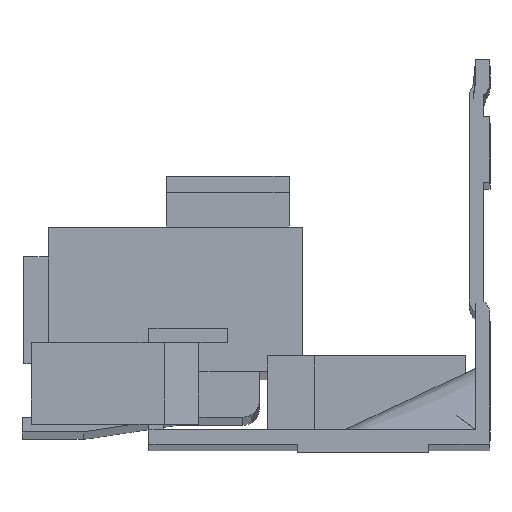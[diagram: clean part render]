
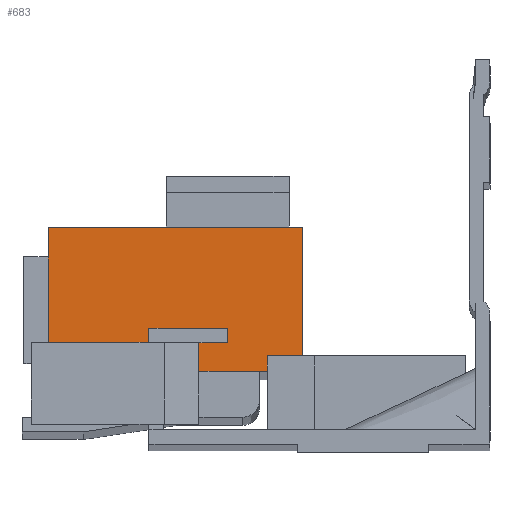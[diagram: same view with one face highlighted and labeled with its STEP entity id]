
A CAD part, front view. The second image highlights one B-rep face of the part: STEP entity #683.
In plain terms, the highlighted planar face has unit normal (0, -1, 0).
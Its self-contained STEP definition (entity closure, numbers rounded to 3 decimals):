
#567 = ORIENTED_EDGE ( 'NONE', *, *, #3698, .T. ) ;
#568 = ORIENTED_EDGE ( 'NONE', *, *, #3699, .F. ) ;
#569 = ORIENTED_EDGE ( 'NONE', *, *, #3700, .F. ) ;
#570 = ORIENTED_EDGE ( 'NONE', *, *, #3701, .F. ) ;
#571 = ORIENTED_EDGE ( 'NONE', *, *, #3712, .F. ) ;
#572 = ORIENTED_EDGE ( 'NONE', *, *, #3719, .F. ) ;
#573 = ORIENTED_EDGE ( 'NONE', *, *, #3738, .T. ) ;
#574 = ORIENTED_EDGE ( 'NONE', *, *, #3752, .T. ) ;
#575 = ORIENTED_EDGE ( 'NONE', *, *, #3702, .T. ) ;
#576 = ORIENTED_EDGE ( 'NONE', *, *, #3703, .T. ) ;
#577 = ORIENTED_EDGE ( 'NONE', *, *, #3704, .T. ) ;
#578 = ORIENTED_EDGE ( 'NONE', *, *, #3705, .T. ) ;
#683 = ADVANCED_FACE ( 'NONE', ( #4501 ), #1339, .F. ) ;
#1336 = DIRECTION ( 'NONE',  ( -1., 0., 0. ) ) ;
#1337 = DIRECTION ( 'NONE',  ( 0., 1., 0. ) ) ;
#1338 = CARTESIAN_POINT ( 'NONE',  ( -49.9, -20., -27.058 ) ) ;
#1339 = PLANE ( 'NONE',  #3899 ) ;
#1490 = VERTEX_POINT ( 'NONE', #2870 ) ;
#1494 = VERTEX_POINT ( 'NONE', #2874 ) ;
#1508 = VERTEX_POINT ( 'NONE', #2888 ) ;
#1511 = VERTEX_POINT ( 'NONE', #2891 ) ;
#1517 = VERTEX_POINT ( 'NONE', #2897 ) ;
#1519 = VERTEX_POINT ( 'NONE', #2899 ) ;
#1520 = VERTEX_POINT ( 'NONE', #2900 ) ;
#1583 = VERTEX_POINT ( 'NONE', #2963 ) ;
#1584 = VERTEX_POINT ( 'NONE', #2964 ) ;
#1585 = VERTEX_POINT ( 'NONE', #2965 ) ;
#1586 = VERTEX_POINT ( 'NONE', #2966 ) ;
#1607 = VERTEX_POINT ( 'NONE', #2987 ) ;
#2870 = CARTESIAN_POINT ( 'NONE',  ( -53.9, -20., -23.558 ) ) ;
#2874 = CARTESIAN_POINT ( 'NONE',  ( -41.6, -20., -21.858 ) ) ;
#2888 = CARTESIAN_POINT ( 'NONE',  ( -22.9, -20., -9.558 ) ) ;
#2891 = CARTESIAN_POINT ( 'NONE',  ( -53.9, -20., -9.558 ) ) ;
#2897 = CARTESIAN_POINT ( 'NONE',  ( -32., -20., -23.608 ) ) ;
#2899 = CARTESIAN_POINT ( 'NONE',  ( -32., -20., -21.858 ) ) ;
#2900 = CARTESIAN_POINT ( 'NONE',  ( -35.5, -20., -23.608 ) ) ;
#2963 = CARTESIAN_POINT ( 'NONE',  ( -27.15, -20., -25.181 ) ) ;
#2964 = CARTESIAN_POINT ( 'NONE',  ( -35.5, -20., -27.058 ) ) ;
#2965 = CARTESIAN_POINT ( 'NONE',  ( -27.15, -20., -27.058 ) ) ;
#2966 = CARTESIAN_POINT ( 'NONE',  ( -22.9, -20., -25.181 ) ) ;
#2987 = CARTESIAN_POINT ( 'NONE',  ( -41.6, -20., -23.558 ) ) ;
#3422 = CARTESIAN_POINT ( 'NONE',  ( -35.5, -20., -27.058 ) ) ;
#3423 = DIRECTION ( 'NONE',  ( 0., 0., -1. ) ) ;
#3424 = CARTESIAN_POINT ( 'NONE',  ( -32., -20., -23.608 ) ) ;
#3425 = DIRECTION ( 'NONE',  ( 1., 0., 0. ) ) ;
#3426 = CARTESIAN_POINT ( 'NONE',  ( -32., -20., -21.831 ) ) ;
#3427 = DIRECTION ( 'NONE',  ( 0., 0., 1. ) ) ;
#3428 = CARTESIAN_POINT ( 'NONE',  ( -41.6, -20., -21.858 ) ) ;
#3429 = DIRECTION ( 'NONE',  ( -1., 0., 0. ) ) ;
#3430 = CARTESIAN_POINT ( 'NONE',  ( -22.9, -20., -27.058 ) ) ;
#3431 = DIRECTION ( 'NONE',  ( 0., 0., 1. ) ) ;
#3432 = CARTESIAN_POINT ( 'NONE',  ( -49.9, -20., -25.181 ) ) ;
#3433 = DIRECTION ( 'NONE',  ( 1., 0., 0. ) ) ;
#3434 = CARTESIAN_POINT ( 'NONE',  ( -27.15, -20., -27.058 ) ) ;
#3435 = DIRECTION ( 'NONE',  ( 0., 0., 1. ) ) ;
#3436 = CARTESIAN_POINT ( 'NONE',  ( -49.9, -20., -27.058 ) ) ;
#3437 = DIRECTION ( 'NONE',  ( 1., 0., 0. ) ) ;
#3450 = CARTESIAN_POINT ( 'NONE',  ( -41.6, -20., -35.931 ) ) ;
#3451 = DIRECTION ( 'NONE',  ( 0., 0., -1. ) ) ;
#3464 = CARTESIAN_POINT ( 'NONE',  ( -49.9, -20., -23.558 ) ) ;
#3465 = DIRECTION ( 'NONE',  ( -1., 0., 0. ) ) ;
#3503 = CARTESIAN_POINT ( 'NONE',  ( -53.9, -20., -29.558 ) ) ;
#3504 = DIRECTION ( 'NONE',  ( 0., 0., -1. ) ) ;
#3533 = CARTESIAN_POINT ( 'NONE',  ( -53.9, -20., -9.558 ) ) ;
#3534 = DIRECTION ( 'NONE',  ( -1., 0., 0. ) ) ;
#3698 = EDGE_CURVE ( 'NONE', #1520, #1584, #4912, .T. ) ;
#3699 = EDGE_CURVE ( 'NONE', #1520, #1517, #4914, .T. ) ;
#3700 = EDGE_CURVE ( 'NONE', #1517, #1519, #4916, .T. ) ;
#3701 = EDGE_CURVE ( 'NONE', #1519, #1494, #4918, .T. ) ;
#3702 = EDGE_CURVE ( 'NONE', #1586, #1508, #4920, .T. ) ;
#3703 = EDGE_CURVE ( 'NONE', #1583, #1586, #4922, .T. ) ;
#3704 = EDGE_CURVE ( 'NONE', #1585, #1583, #4924, .T. ) ;
#3705 = EDGE_CURVE ( 'NONE', #1584, #1585, #4926, .T. ) ;
#3712 = EDGE_CURVE ( 'NONE', #1494, #1607, #4940, .T. ) ;
#3719 = EDGE_CURVE ( 'NONE', #1607, #1490, #4954, .T. ) ;
#3738 = EDGE_CURVE ( 'NONE', #1511, #1490, #4992, .T. ) ;
#3752 = EDGE_CURVE ( 'NONE', #1508, #1511, #5020, .T. ) ;
#3899 = AXIS2_PLACEMENT_3D ( 'NONE', #1338, #1337, #1336 ) ;
#4397 = EDGE_LOOP ( 'NONE', ( #578, #577, #576, #575, #574, #573, #572, #571, #570, #569, #568, #567 ) ) ;
#4501 = FACE_OUTER_BOUND ( 'NONE', #4397, .T. ) ;
#4912 = LINE ( 'NONE', #3422, #4913 ) ;
#4913 = VECTOR ( 'NONE', #3423, 1000. ) ;
#4914 = LINE ( 'NONE', #3424, #4915 ) ;
#4915 = VECTOR ( 'NONE', #3425, 1000. ) ;
#4916 = LINE ( 'NONE', #3426, #4917 ) ;
#4917 = VECTOR ( 'NONE', #3427, 1000. ) ;
#4918 = LINE ( 'NONE', #3428, #4919 ) ;
#4919 = VECTOR ( 'NONE', #3429, 1000. ) ;
#4920 = LINE ( 'NONE', #3430, #4921 ) ;
#4921 = VECTOR ( 'NONE', #3431, 1000. ) ;
#4922 = LINE ( 'NONE', #3432, #4923 ) ;
#4923 = VECTOR ( 'NONE', #3433, 1000. ) ;
#4924 = LINE ( 'NONE', #3434, #4925 ) ;
#4925 = VECTOR ( 'NONE', #3435, 1000. ) ;
#4926 = LINE ( 'NONE', #3436, #4927 ) ;
#4927 = VECTOR ( 'NONE', #3437, 1000. ) ;
#4940 = LINE ( 'NONE', #3450, #4941 ) ;
#4941 = VECTOR ( 'NONE', #3451, 1000. ) ;
#4954 = LINE ( 'NONE', #3464, #4955 ) ;
#4955 = VECTOR ( 'NONE', #3465, 1000. ) ;
#4992 = LINE ( 'NONE', #3503, #4993 ) ;
#4993 = VECTOR ( 'NONE', #3504, 1000. ) ;
#5020 = LINE ( 'NONE', #3533, #5021 ) ;
#5021 = VECTOR ( 'NONE', #3534, 1000. ) ;
